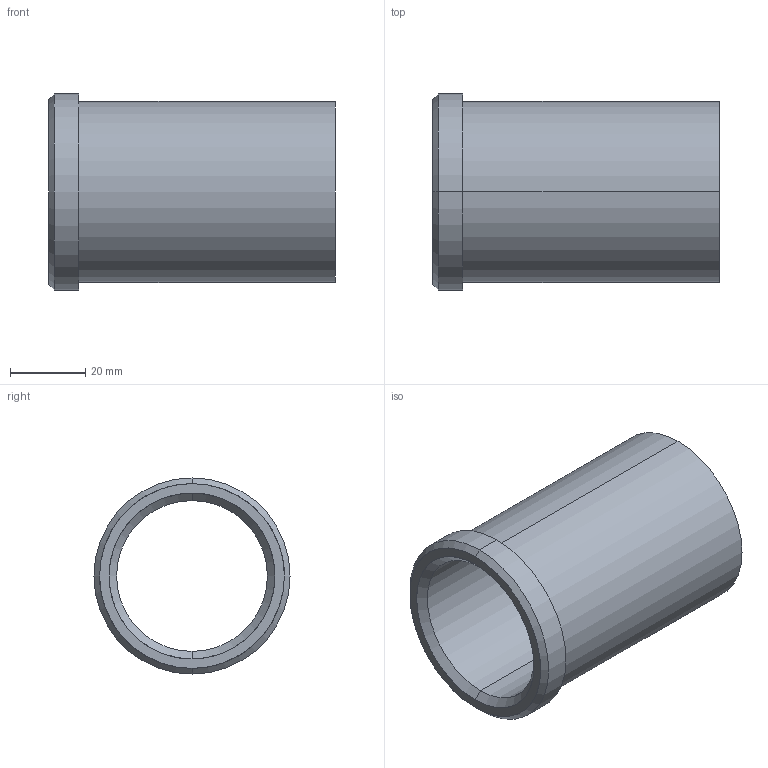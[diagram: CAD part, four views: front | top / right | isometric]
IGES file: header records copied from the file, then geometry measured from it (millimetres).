
Start section: START RECORD GO HERE.
Global section: file name: 353-40X76.igs; native system: DASSAULT SYSTEMES CATIA V5 R20 - www.3ds.com; preprocessor: CATIA Version 5 Release 20 ; author: Utente; organization: NB04-ASUS; date: 20210513.202434; units: millimetre
Bounding box: 76 x 52 x 52 mm (x, y, z)
Surface area: 22451.1 mm2 (no closed solid volume)
Topology: 0 solids, 0 shells, 15 faces, 96 edges, 96 vertices
Faces by surface type: revolution 12, plane 3
